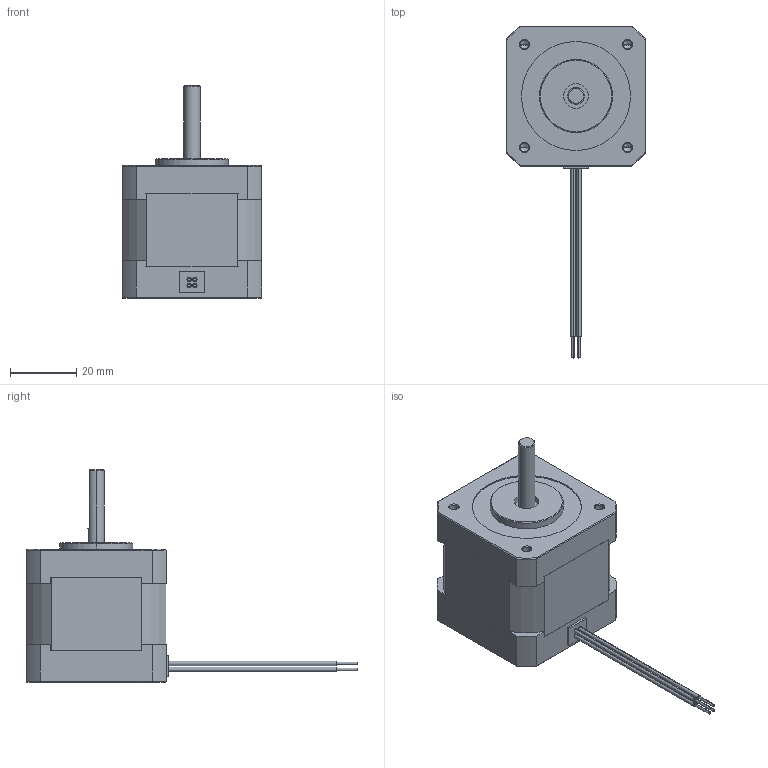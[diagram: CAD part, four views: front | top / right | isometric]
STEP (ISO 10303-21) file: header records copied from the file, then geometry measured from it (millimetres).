
FILE_DESCRIPTION (( 'STEP AP214' ), '1' );
FILE_NAME ('17Y202S-LW4.STEP', '2010-05-11T21:13:16', ( 'Tim Raines' ), ( 'Anaheim Automation' ), 'SwSTEP 2.0', 'SolidWorks 2010', '' );
FILE_SCHEMA (( 'AUTOMOTIVE_DESIGN' ));
Length unit declared in the file: inch
Products named in the file (1): 17Y202S-LW4
Bounding box: 42.16 x 99.95 x 63.88 mm (x, y, z)
Volume: 69475.6 mm3; surface area: 12096.9 mm2
Topology: 1 solids, 1 shells, 232 faces, 549 edges, 344 vertices
Faces by surface type: plane 113, cylinder 72, cone 39, torus 8
Entity records: 9529 total; most frequent: DIRECTION 1182, CARTESIAN_POINT 1172, ORIENTED_EDGE 1082, EDGE_CURVE 541, AXIS2_PLACEMENT_3D 426, VERTEX_POINT 344, LINE 330, VECTOR 330
